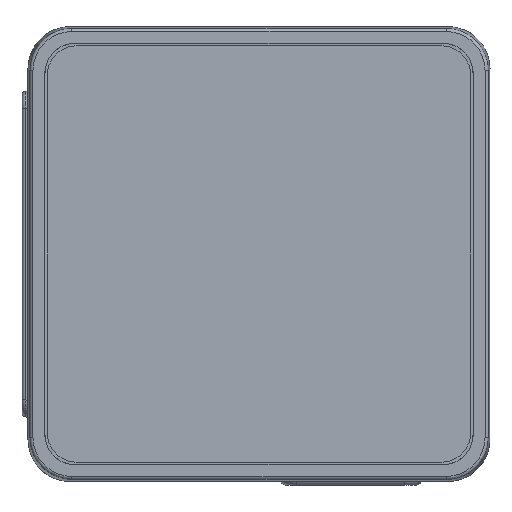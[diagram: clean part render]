
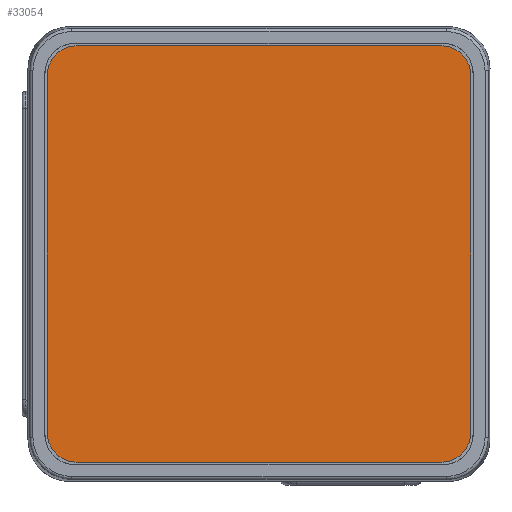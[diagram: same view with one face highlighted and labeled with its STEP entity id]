
A CAD part, top view. The second image highlights one B-rep face of the part: STEP entity #33054.
In plain terms, the highlighted planar face has unit normal (0, 0, 1).
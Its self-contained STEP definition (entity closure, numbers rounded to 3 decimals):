
#32823=CARTESIAN_POINT('',(30.9,-14.9,12.));
#32824=DIRECTION('',(0.,0.,-1.));
#32825=DIRECTION('',(1.,0.,0.));
#32826=AXIS2_PLACEMENT_3D('',#32823,#32824,#32825);
#32828=DIRECTION('',(-1.,0.,0.));
#32829=VECTOR('',#32828,30.4);
#32830=CARTESIAN_POINT('',(30.9,-17.4,12.));
#32831=LINE('',#32830,#32829);
#32832=CARTESIAN_POINT('',(0.5,-14.9,12.));
#32833=DIRECTION('',(0.,0.,-1.));
#32834=DIRECTION('',(0.,-1.,0.));
#32835=AXIS2_PLACEMENT_3D('',#32832,#32833,#32834);
#32837=DIRECTION('',(0.,1.,0.));
#32838=VECTOR('',#32837,29.8);
#32839=CARTESIAN_POINT('',(-2.,-14.9,12.));
#32840=LINE('',#32839,#32838);
#32841=CARTESIAN_POINT('',(0.5,14.9,12.));
#32842=DIRECTION('',(0.,0.,-1.));
#32843=DIRECTION('',(-1.,0.,0.));
#32844=AXIS2_PLACEMENT_3D('',#32841,#32842,#32843);
#32846=DIRECTION('',(1.,0.,0.));
#32847=VECTOR('',#32846,30.4);
#32848=CARTESIAN_POINT('',(0.5,17.4,12.));
#32849=LINE('',#32848,#32847);
#32850=CARTESIAN_POINT('',(30.9,14.9,12.));
#32851=DIRECTION('',(0.,0.,-1.));
#32852=DIRECTION('',(0.,1.,0.));
#32853=AXIS2_PLACEMENT_3D('',#32850,#32851,#32852);
#32855=DIRECTION('',(0.,-1.,0.));
#32856=VECTOR('',#32855,29.8);
#32857=CARTESIAN_POINT('',(33.4,14.9,12.));
#32858=LINE('',#32857,#32856);
#32983=CARTESIAN_POINT('',(33.4,-14.9,12.));
#32984=CARTESIAN_POINT('',(30.9,-17.4,12.));
#32985=VERTEX_POINT('',#32983);
#32986=VERTEX_POINT('',#32984);
#32987=CARTESIAN_POINT('',(0.5,-17.4,12.));
#32988=VERTEX_POINT('',#32987);
#32989=CARTESIAN_POINT('',(-2.,-14.9,12.));
#32990=VERTEX_POINT('',#32989);
#32991=CARTESIAN_POINT('',(-2.,14.9,12.));
#32992=VERTEX_POINT('',#32991);
#32993=CARTESIAN_POINT('',(0.5,17.4,12.));
#32994=VERTEX_POINT('',#32993);
#32995=CARTESIAN_POINT('',(30.9,17.4,12.));
#32996=VERTEX_POINT('',#32995);
#32997=CARTESIAN_POINT('',(33.4,14.9,12.));
#32998=VERTEX_POINT('',#32997);
#33031=CARTESIAN_POINT('',(0.,0.,12.));
#33032=DIRECTION('',(0.,0.,1.));
#33033=DIRECTION('',(1.,0.,0.));
#33034=AXIS2_PLACEMENT_3D('',#33031,#33032,#33033);
#33035=PLANE('',#33034);
#33037=ORIENTED_EDGE('',*,*,#33036,.T.);
#33039=ORIENTED_EDGE('',*,*,#33038,.T.);
#33041=ORIENTED_EDGE('',*,*,#33040,.T.);
#33043=ORIENTED_EDGE('',*,*,#33042,.T.);
#33045=ORIENTED_EDGE('',*,*,#33044,.T.);
#33047=ORIENTED_EDGE('',*,*,#33046,.T.);
#33049=ORIENTED_EDGE('',*,*,#33048,.T.);
#33051=ORIENTED_EDGE('',*,*,#33050,.T.);
#33052=EDGE_LOOP('',(#33037,#33039,#33041,#33043,#33045,#33047,#33049,#33051));
#33053=FACE_OUTER_BOUND('',#33052,.F.);
#33054=ADVANCED_FACE('',(#33053),#33035,.T.);
#32827=CIRCLE('',#32826,2.5);
#32836=CIRCLE('',#32835,2.5);
#32845=CIRCLE('',#32844,2.5);
#32854=CIRCLE('',#32853,2.5);
#33036=EDGE_CURVE('',#32985,#32986,#32827,.T.);
#33038=EDGE_CURVE('',#32986,#32988,#32831,.T.);
#33040=EDGE_CURVE('',#32988,#32990,#32836,.T.);
#33042=EDGE_CURVE('',#32990,#32992,#32840,.T.);
#33044=EDGE_CURVE('',#32992,#32994,#32845,.T.);
#33046=EDGE_CURVE('',#32994,#32996,#32849,.T.);
#33048=EDGE_CURVE('',#32996,#32998,#32854,.T.);
#33050=EDGE_CURVE('',#32998,#32985,#32858,.T.);
